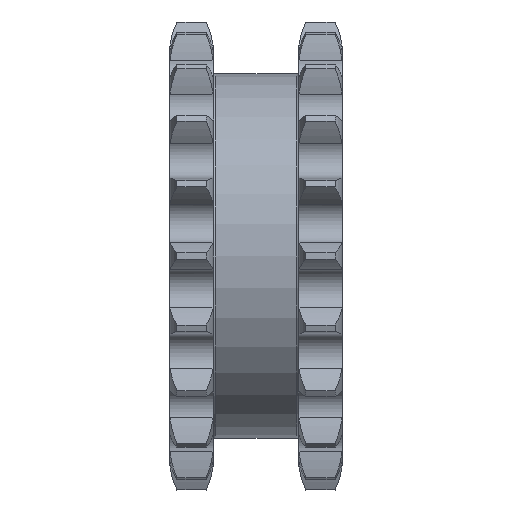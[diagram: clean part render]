
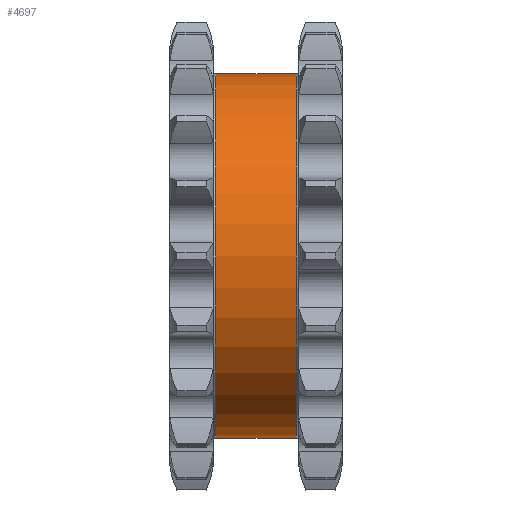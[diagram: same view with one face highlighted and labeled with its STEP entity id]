
A CAD part, front view. The second image highlights one B-rep face of the part: STEP entity #4697.
In plain terms, the highlighted cylindrical face has radius 67.5 mm (diameter 135 mm), a full revolution.
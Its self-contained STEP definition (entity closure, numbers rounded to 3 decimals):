
#18=FACE_BOUND('',#1108,.T.);
#599=CYLINDRICAL_SURFACE('',#5207,67.5);
#849=FACE_OUTER_BOUND('',#1107,.T.);
#1107=EDGE_LOOP('',(#4341));
#1108=EDGE_LOOP('',(#4342));
#1371=CIRCLE('',#5206,67.5);
#1372=CIRCLE('',#5208,67.5);
#2200=VERTEX_POINT('',#9496);
#2201=VERTEX_POINT('',#9499);
#2946=EDGE_CURVE('',#2200,#2200,#1371,.T.);
#2947=EDGE_CURVE('',#2201,#2201,#1372,.T.);
#4341=ORIENTED_EDGE('',*,*,#2946,.T.);
#4342=ORIENTED_EDGE('',*,*,#2947,.F.);
#4697=ADVANCED_FACE('',(#849,#18),#599,.T.);
#5206=AXIS2_PLACEMENT_3D('',#9497,#6383,#6384);
#5207=AXIS2_PLACEMENT_3D('',#9498,#6385,#6386);
#5208=AXIS2_PLACEMENT_3D('',#9500,#6387,#6388);
#6383=DIRECTION('center_axis',(1.,0.,0.));
#6384=DIRECTION('ref_axis',(0.,0.,-1.));
#6385=DIRECTION('center_axis',(1.,0.,0.));
#6386=DIRECTION('ref_axis',(0.,1.,0.));
#6387=DIRECTION('center_axis',(1.,0.,0.));
#6388=DIRECTION('ref_axis',(0.,0.,-1.));
#9496=CARTESIAN_POINT('',(9.17,137.331,0.));
#9497=CARTESIAN_POINT('Origin',(9.17,69.831,0.));
#9498=CARTESIAN_POINT('Origin',(24.17,69.831,0.));
#9499=CARTESIAN_POINT('',(39.17,137.331,0.));
#9500=CARTESIAN_POINT('Origin',(39.17,69.831,0.));
